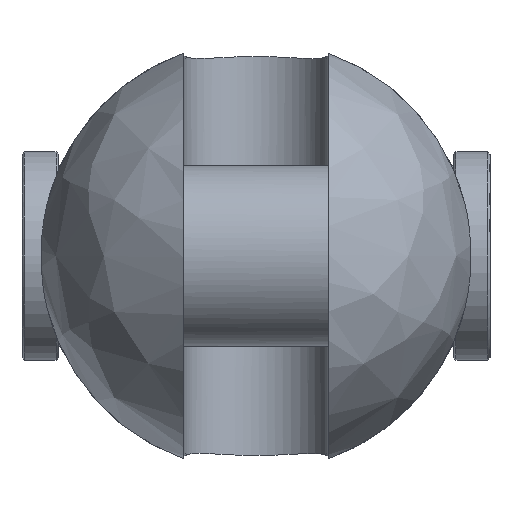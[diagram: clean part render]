
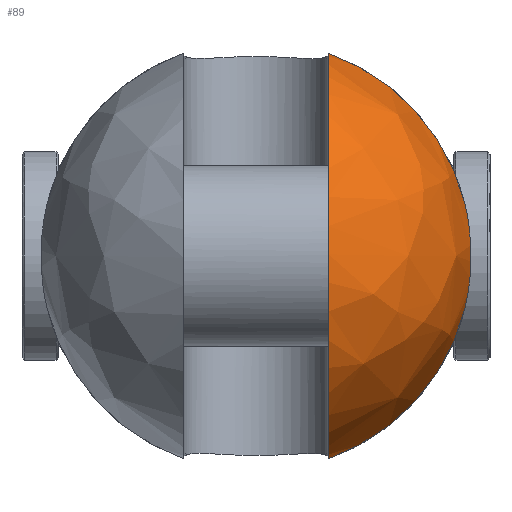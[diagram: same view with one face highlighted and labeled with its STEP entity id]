
A CAD part, left-side view. The second image highlights one B-rep face of the part: STEP entity #89.
In plain terms, the highlighted free-form (B-spline) face has degree [2, 2] with [9, 5] control points.
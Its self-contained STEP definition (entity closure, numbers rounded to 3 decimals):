
#89=ADVANCED_FACE('',(#164),#1306,.T.);
#164=FACE_OUTER_BOUND('',#249,.T.);
#249=EDGE_LOOP('',(#583,#584,#585,#586));
#583=ORIENTED_EDGE('',*,*,#811,.T.);
#584=ORIENTED_EDGE('',*,*,#835,.F.);
#585=ORIENTED_EDGE('',*,*,#847,.T.);
#586=ORIENTED_EDGE('',*,*,#827,.F.);
#811=EDGE_CURVE('',#1192,#1191,#1045,.T.);
#827=EDGE_CURVE('',#1192,#1204,#1055,.T.);
#835=EDGE_CURVE('',#1211,#1191,#1056,.T.);
#847=EDGE_CURVE('',#1211,#1204,#963,.T.);
#963=B_SPLINE_CURVE_WITH_KNOTS('',3,(#3144,#3145,#3146,#3147,#3148,#3149,
#3150,#3151,#3152,#3153,#3154,#3155,#3156,#3157),.UNSPECIFIED.,.F.,.F.,
(4,2,2,2,2,2,4),(0.,1.507,6.88,12.253,
17.626,22.999,24.507),.UNSPECIFIED.);
#1045=(
BOUNDED_CURVE()
B_SPLINE_CURVE(2,(#2920,#2921,#2922,#2923,#2924),.UNSPECIFIED.,.F.,.F.)
B_SPLINE_CURVE_WITH_KNOTS((3,2,3),(-140.505,-70.253,
0.),.UNSPECIFIED.)
CURVE()
GEOMETRIC_REPRESENTATION_ITEM()
RATIONAL_B_SPLINE_CURVE((1.,0.707,1.,0.707,1.))
REPRESENTATION_ITEM('')
);
#1055=(
BOUNDED_CURVE()
B_SPLINE_CURVE(2,(#3014,#3015,#3016),.UNSPECIFIED.,.F.,.F.)
B_SPLINE_CURVE_WITH_KNOTS((3,3),(0.,46.556),.UNSPECIFIED.)
CURVE()
GEOMETRIC_REPRESENTATION_ITEM()
RATIONAL_B_SPLINE_CURVE((1.,0.882,1.))
REPRESENTATION_ITEM('')
);
#1056=(
BOUNDED_CURVE()
B_SPLINE_CURVE(2,(#3071,#3072,#3073),.UNSPECIFIED.,.F.,.F.)
B_SPLINE_CURVE_WITH_KNOTS((3,3),(0.,46.556),.UNSPECIFIED.)
CURVE()
GEOMETRIC_REPRESENTATION_ITEM()
RATIONAL_B_SPLINE_CURVE((1.,0.882,1.))
REPRESENTATION_ITEM('')
);
#1191=VERTEX_POINT('',#2837);
#1192=VERTEX_POINT('',#2838);
#1204=VERTEX_POINT('',#2850);
#1211=VERTEX_POINT('',#2857);
#1306=(
BOUNDED_SURFACE()
B_SPLINE_SURFACE(2,2,((#2445,#2446,#2447,#2448,#2449),(#2450,#2451,#2452,
#2453,#2454),(#2455,#2456,#2457,#2458,#2459),(#2460,#2461,#2462,#2463,#2464),
(#2465,#2466,#2467,#2468,#2469),(#2470,#2471,#2472,#2473,#2474),(#2475,
#2476,#2477,#2478,#2479),(#2480,#2481,#2482,#2483,#2484),(#2485,#2486,#2487,
#2488,#2489)),.UNSPECIFIED.,.T.,.F.,.F.)
B_SPLINE_SURFACE_WITH_KNOTS((3,2,2,2,3),(3,2,3),(0.,74.613,149.226,
223.838,298.451),(0.,74.613,149.226),
 .UNSPECIFIED.)
GEOMETRIC_REPRESENTATION_ITEM()
RATIONAL_B_SPLINE_SURFACE(((1.,0.707,1.,0.707,1.),
(0.707,0.5,0.707,0.5,0.707),(1.,0.707,
1.,0.707,1.),(0.707,0.5,0.707,0.5,0.707),
(1.,0.707,1.,0.707,1.),(0.707,0.5,0.707,
0.5,0.707),(1.,0.707,1.,0.707,1.),(0.707,
0.5,0.707,0.5,0.707),(1.,0.707,1.,0.707,
1.)))
REPRESENTATION_ITEM('')
SURFACE()
);
#2445=CARTESIAN_POINT('',(-68.5,0.,0.));
#2446=CARTESIAN_POINT('',(-68.5,47.5,0.));
#2447=CARTESIAN_POINT('',(-21.,47.5,0.));
#2448=CARTESIAN_POINT('',(26.5,47.5,0.));
#2449=CARTESIAN_POINT('',(26.5,0.,0.));
#2450=CARTESIAN_POINT('',(-68.5,0.,0.));
#2451=CARTESIAN_POINT('',(-68.5,47.5,47.5));
#2452=CARTESIAN_POINT('',(-21.,47.5,47.5));
#2453=CARTESIAN_POINT('',(26.5,47.5,47.5));
#2454=CARTESIAN_POINT('',(26.5,0.,0.));
#2455=CARTESIAN_POINT('',(-68.5,0.,0.));
#2456=CARTESIAN_POINT('',(-68.5,0.,47.5));
#2457=CARTESIAN_POINT('',(-21.,0.,47.5));
#2458=CARTESIAN_POINT('',(26.5,0.,47.5));
#2459=CARTESIAN_POINT('',(26.5,0.,0.));
#2460=CARTESIAN_POINT('',(-68.5,0.,0.));
#2461=CARTESIAN_POINT('',(-68.5,-47.5,47.5));
#2462=CARTESIAN_POINT('',(-21.,-47.5,47.5));
#2463=CARTESIAN_POINT('',(26.5,-47.5,47.5));
#2464=CARTESIAN_POINT('',(26.5,0.,0.));
#2465=CARTESIAN_POINT('',(-68.5,0.,0.));
#2466=CARTESIAN_POINT('',(-68.5,-47.5,0.));
#2467=CARTESIAN_POINT('',(-21.,-47.5,0.));
#2468=CARTESIAN_POINT('',(26.5,-47.5,0.));
#2469=CARTESIAN_POINT('',(26.5,0.,0.));
#2470=CARTESIAN_POINT('',(-68.5,0.,0.));
#2471=CARTESIAN_POINT('',(-68.5,-47.5,-47.5));
#2472=CARTESIAN_POINT('',(-21.,-47.5,-47.5));
#2473=CARTESIAN_POINT('',(26.5,-47.5,-47.5));
#2474=CARTESIAN_POINT('',(26.5,0.,0.));
#2475=CARTESIAN_POINT('',(-68.5,0.,0.));
#2476=CARTESIAN_POINT('',(-68.5,0.,-47.5));
#2477=CARTESIAN_POINT('',(-21.,0.,-47.5));
#2478=CARTESIAN_POINT('',(26.5,0.,-47.5));
#2479=CARTESIAN_POINT('',(26.5,0.,0.));
#2480=CARTESIAN_POINT('',(-68.5,0.,0.));
#2481=CARTESIAN_POINT('',(-68.5,47.5,-47.5));
#2482=CARTESIAN_POINT('',(-21.,47.5,-47.5));
#2483=CARTESIAN_POINT('',(26.5,47.5,-47.5));
#2484=CARTESIAN_POINT('',(26.5,0.,0.));
#2485=CARTESIAN_POINT('',(-68.5,0.,0.));
#2486=CARTESIAN_POINT('',(-68.5,47.5,0.));
#2487=CARTESIAN_POINT('',(-21.,47.5,0.));
#2488=CARTESIAN_POINT('',(26.5,47.5,0.));
#2489=CARTESIAN_POINT('',(26.5,0.,0.));
#2837=CARTESIAN_POINT('',(-21.,-16.,-44.724));
#2838=CARTESIAN_POINT('',(-21.,-16.,44.724));
#2850=CARTESIAN_POINT('',(-21.,-46.057,11.619));
#2857=CARTESIAN_POINT('',(-21.,-46.057,-11.619));
#2920=CARTESIAN_POINT('',(-21.,-16.,44.724));
#2921=CARTESIAN_POINT('',(-65.724,-16.,44.724));
#2922=CARTESIAN_POINT('',(-65.724,-16.,0.));
#2923=CARTESIAN_POINT('',(-65.724,-16.,-44.724));
#2924=CARTESIAN_POINT('',(-21.,-16.,-44.724));
#3014=CARTESIAN_POINT('',(-21.,-16.,44.724));
#3015=CARTESIAN_POINT('',(-21.,-39.859,36.189));
#3016=CARTESIAN_POINT('',(-21.,-46.057,11.619));
#3071=CARTESIAN_POINT('',(-21.,-46.057,-11.619));
#3072=CARTESIAN_POINT('',(-21.,-39.859,-36.189));
#3073=CARTESIAN_POINT('',(-21.,-16.,-44.724));
#3144=CARTESIAN_POINT('',(-21.,-46.057,-11.619));
#3145=CARTESIAN_POINT('',(-21.24,-46.167,-11.184));
#3146=CARTESIAN_POINT('',(-21.468,-46.27,-10.741));
#3147=CARTESIAN_POINT('',(-22.444,-46.712,-8.684));
#3148=CARTESIAN_POINT('',(-23.032,-46.975,-6.978));
#3149=CARTESIAN_POINT('',(-23.81,-47.321,-3.501));
#3150=CARTESIAN_POINT('',(-24.,-47.405,-1.73));
#3151=CARTESIAN_POINT('',(-24.,-47.405,1.73));
#3152=CARTESIAN_POINT('',(-23.81,-47.321,3.501));
#3153=CARTESIAN_POINT('',(-23.032,-46.975,6.978));
#3154=CARTESIAN_POINT('',(-22.444,-46.712,8.684));
#3155=CARTESIAN_POINT('',(-21.468,-46.27,10.741));
#3156=CARTESIAN_POINT('',(-21.24,-46.167,11.184));
#3157=CARTESIAN_POINT('',(-21.,-46.057,11.619));
